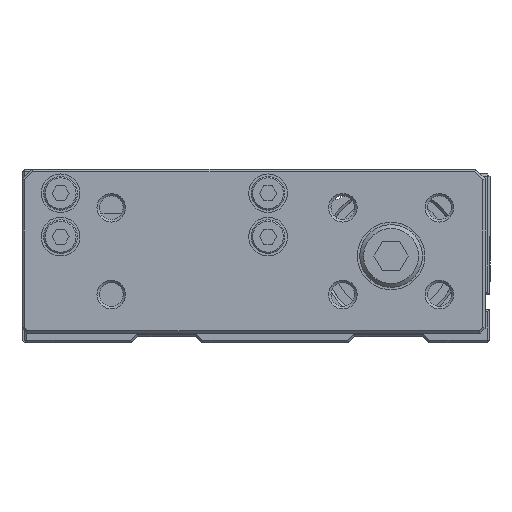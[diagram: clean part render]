
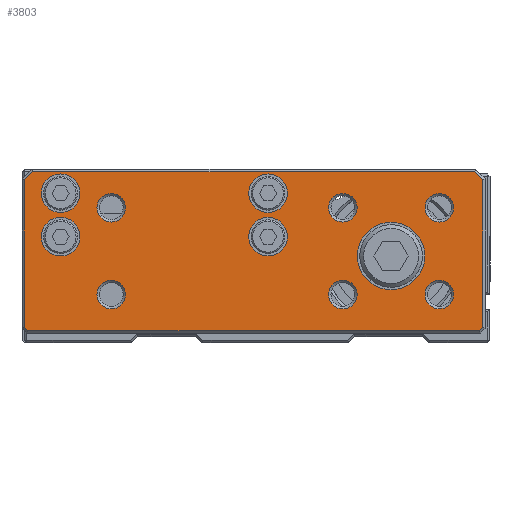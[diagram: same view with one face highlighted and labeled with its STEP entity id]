
A CAD part, front view. The second image highlights one B-rep face of the part: STEP entity #3803.
In plain terms, the highlighted planar face has unit normal (0, -1, 0).
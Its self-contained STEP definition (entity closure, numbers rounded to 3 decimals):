
#3607=CARTESIAN_POINT('',(-7.042,-15.8,10.0));
#3608=VERTEX_POINT('',#3607);
#3609=CARTESIAN_POINT('',(-10.,-15.8,10.0));
#3610=DIRECTION('',(0.0,-1.0,0.0));
#3611=DIRECTION('',(-1.0,0.0,0.0));
#3612=AXIS2_PLACEMENT_3D('',#3609,#3610,#3611);
#3613=CIRCLE('',#3612,2.959);
#3614=EDGE_CURVE('',#3608,#3608,#3613,.T.);
#3619=CARTESIAN_POINT('',(-76.5,-15.8,18.0));
#3620=DIRECTION('',(0.0,-1.0,0.0));
#3621=DIRECTION('',(0.0,0.0,-1.0));
#3622=AXIS2_PLACEMENT_3D('',#3619,#3620,#3621);
#3623=PLANE('',#3622);
#3624=CARTESIAN_POINT('',(19.,-15.8,15.793));
#3625=VERTEX_POINT('',#3624);
#3626=CARTESIAN_POINT('',(19.,-15.8,-14.793));
#3627=VERTEX_POINT('',#3626);
#3628=CARTESIAN_POINT('',(19.,-15.8,15.793));
#3629=DIRECTION('',(0.0,0.0,-1.0));
#3630=VECTOR('',#3629,30.586);
#3631=LINE('',#3628,#3630);
#3632=EDGE_CURVE('',#3625,#3627,#3631,.T.);
#3633=ORIENTED_EDGE('',*,*,#3632,.F.);
#3634=CARTESIAN_POINT('',(17.293,-15.8,17.5));
#3635=VERTEX_POINT('',#3634);
#3636=CARTESIAN_POINT('',(17.293,-15.8,17.5));
#3637=DIRECTION('',(0.707,0.,-0.707));
#3638=VECTOR('',#3637,2.414);
#3639=LINE('',#3636,#3638);
#3640=EDGE_CURVE('',#3635,#3625,#3639,.T.);
#3641=ORIENTED_EDGE('',*,*,#3640,.F.);
#3642=CARTESIAN_POINT('',(-74.293,-15.8,17.5));
#3643=VERTEX_POINT('',#3642);
#3644=CARTESIAN_POINT('',(-74.293,-15.8,17.5));
#3645=DIRECTION('',(1.0,0.0,0.0));
#3646=VECTOR('',#3645,91.586);
#3647=LINE('',#3644,#3646);
#3648=EDGE_CURVE('',#3643,#3635,#3647,.T.);
#3649=ORIENTED_EDGE('',*,*,#3648,.F.);
#3650=CARTESIAN_POINT('',(-76.,-15.8,15.793));
#3651=VERTEX_POINT('',#3650);
#3652=CARTESIAN_POINT('',(-76.,-15.8,15.793));
#3653=DIRECTION('',(0.707,0.,0.707));
#3654=VECTOR('',#3653,2.414);
#3655=LINE('',#3652,#3654);
#3656=EDGE_CURVE('',#3651,#3643,#3655,.T.);
#3657=ORIENTED_EDGE('',*,*,#3656,.F.);
#3658=CARTESIAN_POINT('',(-76.,-15.8,-14.793));
#3659=VERTEX_POINT('',#3658);
#3660=CARTESIAN_POINT('',(-76.,-15.8,-14.793));
#3661=DIRECTION('',(0.0,0.0,1.0));
#3662=VECTOR('',#3661,30.586);
#3663=LINE('',#3660,#3662);
#3664=EDGE_CURVE('',#3659,#3651,#3663,.T.);
#3665=ORIENTED_EDGE('',*,*,#3664,.F.);
#3666=CARTESIAN_POINT('',(-75.293,-15.8,-15.5));
#3667=VERTEX_POINT('',#3666);
#3668=CARTESIAN_POINT('',(-75.293,-15.8,-15.5));
#3669=DIRECTION('',(-0.707,0.,0.707));
#3670=VECTOR('',#3669,1.);
#3671=LINE('',#3668,#3670);
#3672=EDGE_CURVE('',#3667,#3659,#3671,.T.);
#3673=ORIENTED_EDGE('',*,*,#3672,.F.);
#3674=CARTESIAN_POINT('',(18.293,-15.8,-15.5));
#3675=VERTEX_POINT('',#3674);
#3676=CARTESIAN_POINT('',(18.293,-15.8,-15.5));
#3677=DIRECTION('',(-1.0,0.0,0.0));
#3678=VECTOR('',#3677,93.586);
#3679=LINE('',#3676,#3678);
#3680=EDGE_CURVE('',#3675,#3667,#3679,.T.);
#3681=ORIENTED_EDGE('',*,*,#3680,.F.);
#3682=CARTESIAN_POINT('',(19.,-15.8,-14.793));
#3683=DIRECTION('',(-0.707,0.0,-0.707));
#3684=VECTOR('',#3683,1.);
#3685=LINE('',#3682,#3684);
#3686=EDGE_CURVE('',#3627,#3675,#3685,.T.);
#3687=ORIENTED_EDGE('',*,*,#3686,.F.);
#3688=EDGE_LOOP('',(#3633,#3641,#3649,#3657,#3665,#3673,#3681,#3687));
#3689=FACE_OUTER_BOUND('',#3688,.T.);
#3690=CARTESIAN_POINT('',(-7.042,-15.8,-8.0));
#3691=VERTEX_POINT('',#3690);
#3692=CARTESIAN_POINT('',(-10.,-15.8,-8.0));
#3693=DIRECTION('',(0.0,-1.0,0.0));
#3694=DIRECTION('',(-1.0,0.0,0.0));
#3695=AXIS2_PLACEMENT_3D('',#3692,#3693,#3694);
#3696=CIRCLE('',#3695,2.959);
#3697=EDGE_CURVE('',#3691,#3691,#3696,.T.);
#3698=ORIENTED_EDGE('',*,*,#3697,.F.);
#3699=EDGE_LOOP('',(#3698));
#3700=FACE_BOUND('',#3699,.T.);
#3701=CARTESIAN_POINT('',(12.959,-15.8,-8.));
#3702=VERTEX_POINT('',#3701);
#3703=CARTESIAN_POINT('',(10.0,-15.8,-8.));
#3704=DIRECTION('',(0.0,-1.0,0.0));
#3705=DIRECTION('',(-1.0,0.0,0.0));
#3706=AXIS2_PLACEMENT_3D('',#3703,#3704,#3705);
#3707=CIRCLE('',#3706,2.959);
#3708=EDGE_CURVE('',#3702,#3702,#3707,.T.);
#3709=ORIENTED_EDGE('',*,*,#3708,.F.);
#3710=EDGE_LOOP('',(#3709));
#3711=FACE_BOUND('',#3710,.T.);
#3712=CARTESIAN_POINT('',(12.959,-15.8,10.));
#3713=VERTEX_POINT('',#3712);
#3714=CARTESIAN_POINT('',(10.0,-15.8,10.));
#3715=DIRECTION('',(0.0,-1.0,0.0));
#3716=DIRECTION('',(-1.0,0.0,0.0));
#3717=AXIS2_PLACEMENT_3D('',#3714,#3715,#3716);
#3718=CIRCLE('',#3717,2.959);
#3719=EDGE_CURVE('',#3713,#3713,#3718,.T.);
#3720=ORIENTED_EDGE('',*,*,#3719,.F.);
#3721=EDGE_LOOP('',(#3720));
#3722=FACE_BOUND('',#3721,.T.);
#3723=CARTESIAN_POINT('',(7.,-15.8,0.0));
#3724=VERTEX_POINT('',#3723);
#3725=CARTESIAN_POINT('',(0.,-15.8,0.0));
#3726=DIRECTION('',(0.0,1.0,0.0));
#3727=DIRECTION('',(1.0,0.0,0.0));
#3728=AXIS2_PLACEMENT_3D('',#3725,#3726,#3727);
#3729=CIRCLE('',#3728,7.);
#3730=EDGE_CURVE('',#3724,#3724,#3729,.T.);
#3731=ORIENTED_EDGE('',*,*,#3730,.T.);
#3732=EDGE_LOOP('',(#3731));
#3733=FACE_BOUND('',#3732,.T.);
#3734=CARTESIAN_POINT('',(-64.5,-15.8,13.));
#3735=VERTEX_POINT('',#3734);
#3736=CARTESIAN_POINT('',(-68.5,-15.8,13.));
#3737=DIRECTION('',(0.0,1.0,0.0));
#3738=DIRECTION('',(1.0,0.0,0.0));
#3739=AXIS2_PLACEMENT_3D('',#3736,#3737,#3738);
#3740=CIRCLE('',#3739,4.0);
#3741=EDGE_CURVE('',#3735,#3735,#3740,.T.);
#3742=ORIENTED_EDGE('',*,*,#3741,.T.);
#3743=EDGE_LOOP('',(#3742));
#3744=FACE_BOUND('',#3743,.T.);
#3745=CARTESIAN_POINT('',(-64.5,-15.8,4.));
#3746=VERTEX_POINT('',#3745);
#3747=CARTESIAN_POINT('',(-68.5,-15.8,4.));
#3748=DIRECTION('',(0.0,1.0,0.0));
#3749=DIRECTION('',(1.0,0.0,0.0));
#3750=AXIS2_PLACEMENT_3D('',#3747,#3748,#3749);
#3751=CIRCLE('',#3750,4.0);
#3752=EDGE_CURVE('',#3746,#3746,#3751,.T.);
#3753=ORIENTED_EDGE('',*,*,#3752,.T.);
#3754=EDGE_LOOP('',(#3753));
#3755=FACE_BOUND('',#3754,.T.);
#3756=CARTESIAN_POINT('',(-21.5,-15.8,13.));
#3757=VERTEX_POINT('',#3756);
#3758=CARTESIAN_POINT('',(-25.5,-15.8,13.));
#3759=DIRECTION('',(0.0,1.0,0.0));
#3760=DIRECTION('',(1.0,0.0,0.0));
#3761=AXIS2_PLACEMENT_3D('',#3758,#3759,#3760);
#3762=CIRCLE('',#3761,4.0);
#3763=EDGE_CURVE('',#3757,#3757,#3762,.T.);
#3764=ORIENTED_EDGE('',*,*,#3763,.T.);
#3765=EDGE_LOOP('',(#3764));
#3766=FACE_BOUND('',#3765,.T.);
#3767=CARTESIAN_POINT('',(-21.5,-15.8,4.));
#3768=VERTEX_POINT('',#3767);
#3769=CARTESIAN_POINT('',(-25.5,-15.8,4.));
#3770=DIRECTION('',(0.0,1.0,0.0));
#3771=DIRECTION('',(1.0,0.0,0.0));
#3772=AXIS2_PLACEMENT_3D('',#3769,#3770,#3771);
#3773=CIRCLE('',#3772,4.0);
#3774=EDGE_CURVE('',#3768,#3768,#3773,.T.);
#3775=ORIENTED_EDGE('',*,*,#3774,.T.);
#3776=EDGE_LOOP('',(#3775));
#3777=FACE_BOUND('',#3776,.T.);
#3778=CARTESIAN_POINT('',(-55.042,-15.8,-8.));
#3779=VERTEX_POINT('',#3778);
#3780=CARTESIAN_POINT('',(-58.,-15.8,-8.));
#3781=DIRECTION('',(0.0,-1.0,0.0));
#3782=DIRECTION('',(-1.0,0.0,0.0));
#3783=AXIS2_PLACEMENT_3D('',#3780,#3781,#3782);
#3784=CIRCLE('',#3783,2.958);
#3785=EDGE_CURVE('',#3779,#3779,#3784,.T.);
#3786=ORIENTED_EDGE('',*,*,#3785,.F.);
#3787=EDGE_LOOP('',(#3786));
#3788=FACE_BOUND('',#3787,.T.);
#3789=CARTESIAN_POINT('',(-55.042,-15.8,10.));
#3790=VERTEX_POINT('',#3789);
#3791=CARTESIAN_POINT('',(-58.,-15.8,10.));
#3792=DIRECTION('',(0.0,-1.0,0.0));
#3793=DIRECTION('',(-1.0,0.0,0.0));
#3794=AXIS2_PLACEMENT_3D('',#3791,#3792,#3793);
#3795=CIRCLE('',#3794,2.958);
#3796=EDGE_CURVE('',#3790,#3790,#3795,.T.);
#3797=ORIENTED_EDGE('',*,*,#3796,.F.);
#3798=EDGE_LOOP('',(#3797));
#3799=FACE_BOUND('',#3798,.T.);
#3800=ORIENTED_EDGE('',*,*,#3614,.F.);
#3801=EDGE_LOOP('',(#3800));
#3802=FACE_BOUND('',#3801,.T.);
#3803=ADVANCED_FACE('',(#3689,#3700,#3711,#3722,#3733,#3744,#3755,#3766,#3777,#3788,#3799,#3802),#3623,.T.);
